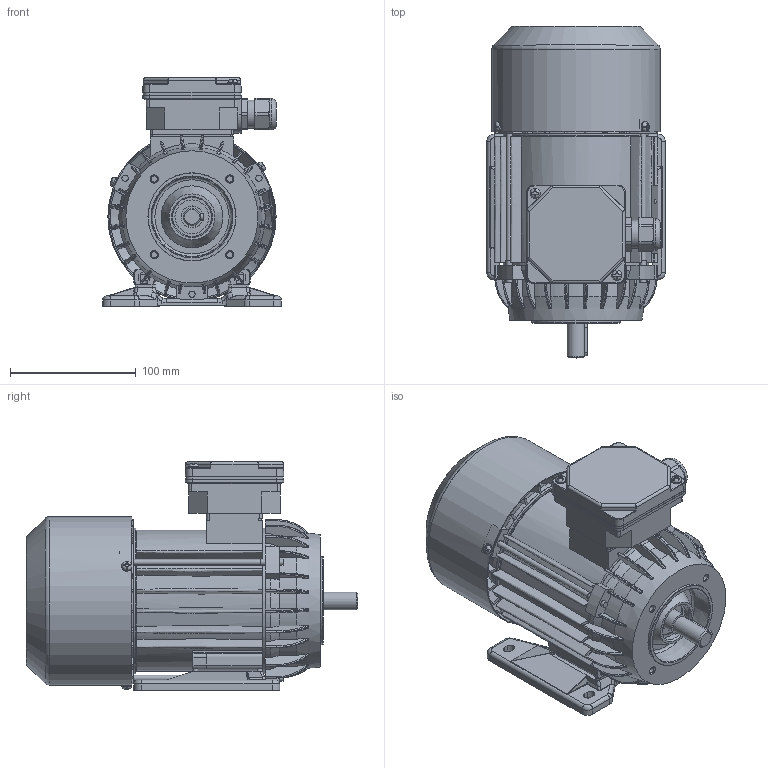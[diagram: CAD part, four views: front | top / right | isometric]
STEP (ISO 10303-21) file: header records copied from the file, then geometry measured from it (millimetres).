
FILE_DESCRIPTION(/* description */ ('Unknown'),/* implementation_level */ '2;1');
FILE_NAME(/* name */ '2SIEL71-4B2',/* time_stamp */ '2021-04-13T15:27:01+02:00',/* author */ ('Unknown'),/* organization */ ('Unknown'),/* preprocessor_version */ 'ST-DEVELOPER v16.7',/* originating_system */ 'Solid Edge',/* authorisation */ 'Unknown');
FILE_SCHEMA (('AUTOMOTIVE_DESIGN {1 0 10303 214 3 1 1}'));
Products named in the file (1): 2SIEL71-4B2
Bounding box: 141.93 x 263.49 x 181.5 mm (x, y, z)
Volume: 725049.7 mm3; surface area: 441516.1 mm2
Topology: 2 solids, 2 shells, 2683 faces, 7492 edges, 4799 vertices
Faces by surface type: plane 1079, cylinder 763, bspline 418, torus 220, cone 177, sphere 26
Full cylindrical faces by diameter (mm): 3.7 x4, 3.8 x4, 4 x2, 4.6 x3, 4.8 x2, 4.917 x4, 5 x8, 5.5 x3, 5.8 x4, 7 x1, 8 x9, 13.999 x1, 15.898 x1, 16.098 x1, 16.498 x1, 16.998 x2, 17.4 x2, 21.998 x2, 22.3 x1, 22.498 x1, 23.098 x1, 23.998 x1, 24.496 x4, 25 x1, 27 x1, 28 x1, 30 x1, 31 x1, 32.502 x4, 36 x2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
Entity records: 115371 total; most frequent: CARTESIAN_POINT 32363, ORIENTED_EDGE 14286, DIRECTION 12213, EDGE_CURVE 7143, VERTEX_POINT 4676, AXIS2_PLACEMENT_3D 4592, FACE_BOUND 3081, EDGE_LOOP 3077
